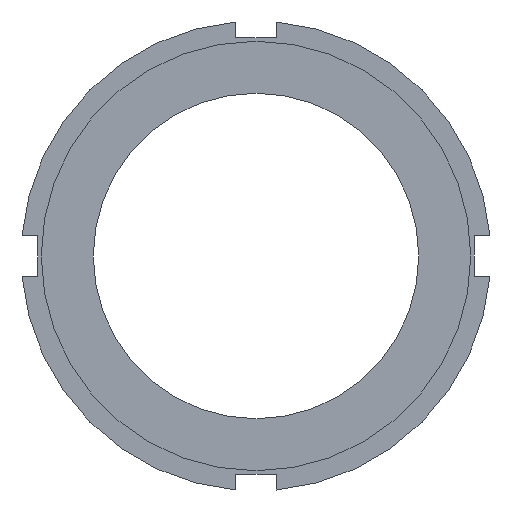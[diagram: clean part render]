
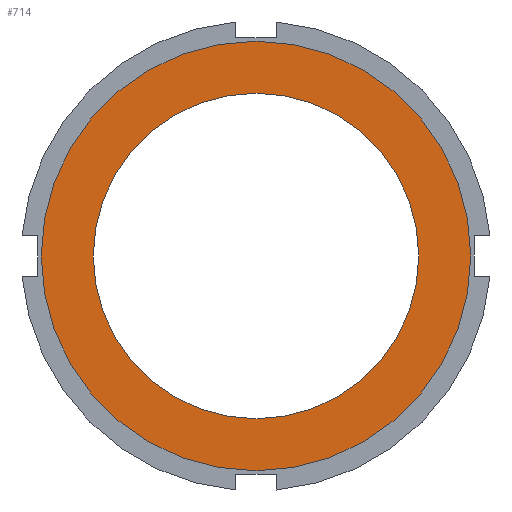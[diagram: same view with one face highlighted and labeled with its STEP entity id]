
A CAD part, left-side view. The second image highlights one B-rep face of the part: STEP entity #714.
In plain terms, the highlighted planar face has unit normal (-1, 0, 0).
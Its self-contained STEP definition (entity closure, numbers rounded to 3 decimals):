
#14 = EDGE_LOOP ( 'NONE', ( #694, #192 ) ) ;
#23 = ORIENTED_EDGE ( 'NONE', *, *, #140, .F. ) ;
#36 = VERTEX_POINT ( 'NONE', #360 ) ;
#39 = VERTEX_POINT ( 'NONE', #398 ) ;
#72 = EDGE_CURVE ( 'NONE', #108, #36, #555, .T. ) ;
#107 = ORIENTED_EDGE ( 'NONE', *, *, #72, .F. ) ;
#108 = VERTEX_POINT ( 'NONE', #149 ) ;
#140 = EDGE_CURVE ( 'NONE', #36, #108, #219, .T. ) ;
#149 = CARTESIAN_POINT ( 'NONE',  ( 0., 0., 24.25 ) ) ;
#192 = ORIENTED_EDGE ( 'NONE', *, *, #762, .T. ) ;
#219 = CIRCLE ( 'NONE', #220, 24.25 ) ;
#220 = AXIS2_PLACEMENT_3D ( 'NONE', #221, #222, #223 ) ;
#221 = CARTESIAN_POINT ( 'NONE',  ( 0., 0., 0. ) ) ;
#222 = DIRECTION ( 'NONE',  ( -1., 0., 0. ) ) ;
#223 = DIRECTION ( 'NONE',  ( 0., 0., 1. ) ) ;
#360 = CARTESIAN_POINT ( 'NONE',  ( 0., 0., -24.25 ) ) ;
#379 = CIRCLE ( 'NONE', #380, 32. ) ;
#380 = AXIS2_PLACEMENT_3D ( 'NONE', #381, #382, #383 ) ;
#381 = CARTESIAN_POINT ( 'NONE',  ( 0., 0., 0. ) ) ;
#382 = DIRECTION ( 'NONE',  ( -1., 0., 0. ) ) ;
#383 = DIRECTION ( 'NONE',  ( 0., 0., 1. ) ) ;
#398 = CARTESIAN_POINT ( 'NONE',  ( 0., 0., -32. ) ) ;
#450 = CARTESIAN_POINT ( 'NONE',  ( 0., 0., 32. ) ) ;
#495 = EDGE_LOOP ( 'NONE', ( #107, #23 ) ) ;
#519 = FACE_BOUND ( 'NONE', #495, .T. ) ;
#520 = FACE_OUTER_BOUND ( 'NONE', #14, .T. ) ;
#521 = PLANE ( 'NONE',  #522 ) ;
#522 = AXIS2_PLACEMENT_3D ( 'NONE', #523, #524, #525 ) ;
#523 = CARTESIAN_POINT ( 'NONE',  ( 0., 24.25, 0. ) ) ;
#524 = DIRECTION ( 'NONE',  ( 1., 0., 0. ) ) ;
#525 = DIRECTION ( 'NONE',  ( 0., 0., -1. ) ) ;
#555 = CIRCLE ( 'NONE', #556, 24.25 ) ;
#556 = AXIS2_PLACEMENT_3D ( 'NONE', #557, #558, #559 ) ;
#557 = CARTESIAN_POINT ( 'NONE',  ( 0., 0., 0. ) ) ;
#558 = DIRECTION ( 'NONE',  ( -1., 0., 0. ) ) ;
#559 = DIRECTION ( 'NONE',  ( 0., 0., 1. ) ) ;
#577 = CIRCLE ( 'NONE', #578, 32. ) ;
#578 = AXIS2_PLACEMENT_3D ( 'NONE', #579, #580, #581 ) ;
#579 = CARTESIAN_POINT ( 'NONE',  ( 0., 0., 0. ) ) ;
#580 = DIRECTION ( 'NONE',  ( -1., 0., 0. ) ) ;
#581 = DIRECTION ( 'NONE',  ( 0., 0., 1. ) ) ;
#608 = VERTEX_POINT ( 'NONE', #450 ) ;
#694 = ORIENTED_EDGE ( 'NONE', *, *, #728, .T. ) ;
#714 = ADVANCED_FACE ( 'NONE', ( #519, #520 ), #521, .F. ) ;
#728 = EDGE_CURVE ( 'NONE', #608, #39, #577, .T. ) ;
#762 = EDGE_CURVE ( 'NONE', #39, #608, #379, .T. ) ;
